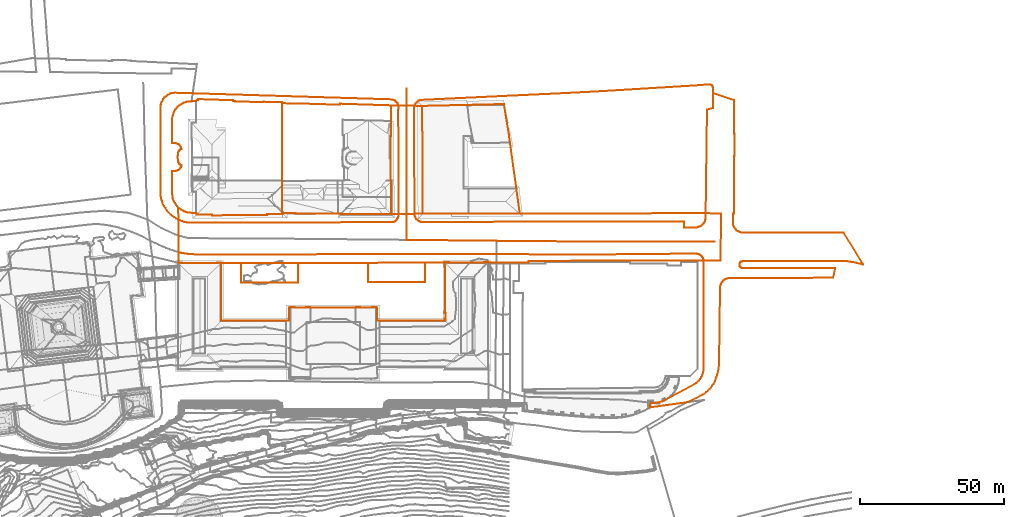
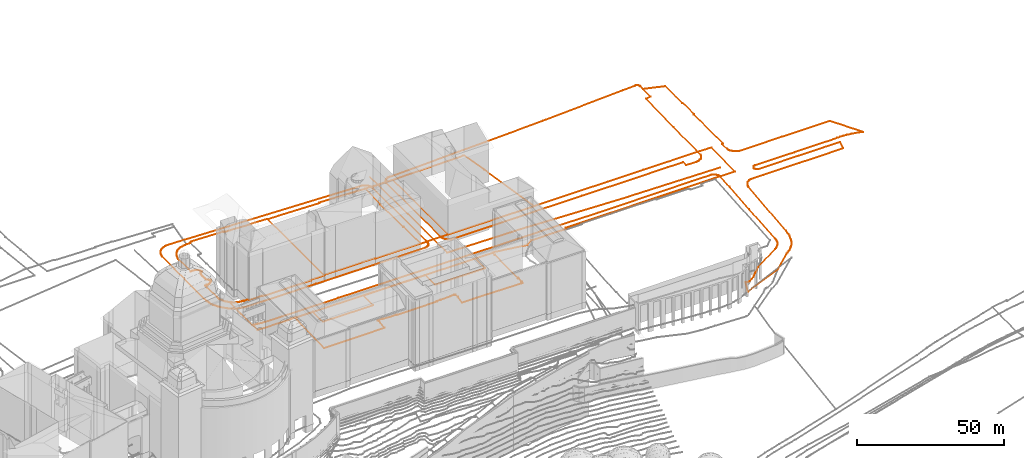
# Not in any storey, part 206 of 477: 7 civil elements, 5 geographic elements.
"""IFC4 model written with IfcOpenShell, lengths in metres."""

from ifc_helpers import new_model, entity, si_unit, frame, origin_with_axes, place, context, subcontext, project, spatial, element, save


model = new_model("IFC4")

# Units and contexts
model_context = context("Model", 3, precision=1e-05, world=origin_with_axes())
body_context = subcontext(model_context, "Body", "Model", "MODEL_VIEW")
ifc_project = project(units=[si_unit("AREAUNIT", "SQUARE_METRE"), si_unit("LENGTHUNIT", "METRE")], contexts=[model_context])

# Sites
site_1_placement = place(None, origin_with_axes())
site_1 = spatial("IfcSite", under=ifc_project, at=site_1_placement, Name="Topoexport Site")
site_2_placement = place(site_1_placement, origin_with_axes())
site_2 = spatial("IfcSite", under=site_1, at=site_2_placement, Name="TPX_ROADS")

# Civil elements
civil_element_1_placement = place(site_2_placement, frame((652.6867320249, 417.5187304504, 542.486), z_axis=(0.0, 0.0, 1.0), x_axis=(1.0, 0.0, 0.0)))
element("IfcCivilElement", 1, at=civil_element_1_placement, inside=site_2, Name="Road 3", ObjectType="ROAD", context=body_context, shape_type="GeometricCurveSet", body=[
    entity("IfcGeometricCurveSet", [entity("IfcIndexedPolyCurve", entity("IfcCartesianPointList3D", [[0.0370000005, 52.7809983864, -0.659], [0.0, 0.0, 0.0]]))]),
])
civil_element_2_placement = place(site_2_placement, frame((652.6867320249, 417.5187304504, 542.486), z_axis=(0.0, 0.0, 1.0), x_axis=(1.0, 0.0, 0.0)))
element("IfcCivilElement", 2, at=civil_element_2_placement, inside=site_2, Name="Road 36", ObjectType="ROAD", context=body_context, shape_type="GeometricCurveSet", body=[
    entity("IfcGeometricCurveSet", [entity("IfcIndexedPolyCurve", entity("IfcCartesianPointList3D", [[0.0, 0.0, 0.0], [28.1950000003, -0.2939999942, -0.083], [31.069000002, -0.3179999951, -0.138]]))]),
])
civil_element_3_placement = place(site_2_placement, frame((683.7557320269, 417.2007304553, 542.348), z_axis=(0.0, 0.0, 1.0), x_axis=(1.0, 0.0, 0.0)))
element("IfcCivilElement", 3, at=civil_element_3_placement, inside=site_2, Name="Road 37", ObjectType="ROAD", context=body_context, shape_type="GeometricCurveSet", body=[
    entity("IfcGeometricCurveSet", [entity("IfcIndexedPolyCurve", entity("IfcCartesianPointList3D", [[0.0, 0.0, 0.0], [39.1219999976, -0.328999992, -0.998], [75.5399999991, -0.2699999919, -1.55]]))]),
])

# Site
site_3_placement = place(site_1_placement, origin_with_axes())
site_3 = spatial("IfcSite", under=site_1, at=site_3_placement, Name="TPX_ROADS_OUTLINES")

# Civil elements
civil_element_4_placement = place(site_3_placement, frame((567.4697320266, 434.5867160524, 542.7544887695), z_axis=(0.0, 0.0, 1.0), x_axis=(1.0, 0.0, 0.0)))
element("IfcCivilElement", 4, at=civil_element_4_placement, inside=site_3, Name="Roads Outline 43", ObjectType="ROAD", context=body_context, shape_type="GeometricCurveSet", body=[
    entity("IfcGeometricCurveSet", [entity("IfcIndexedPolyCurve", entity("IfcCartesianPointList3D", [[0.0, 0.0, 0.0], [0.0620000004, 20.564, 0.0004995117], [0.0780000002, 29.0260000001, 0.000628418], [0.1400000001, 29.5870000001, 0.0011279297], [0.2630000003, 30.1370000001, 0.0021188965], [0.4470000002, 30.6710000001, 0.0036013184], [0.6880000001, 31.1810000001, 0.0055429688], [0.9840000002, 31.6610000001, -0.0008994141], [1.3310000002, 32.1060000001, -0.0092016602], [1.7590000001, 32.54, -0.0146170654], [2.2350000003, 32.9200000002, 0.019026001], [2.7540000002, 33.2410000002, 0.0548631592], [3.307, 33.497, 0.0837890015], [3.8870000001, 33.6850000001, 0.1035077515], [4.4850000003, 33.8030000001, 0.0993103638], [5.0930000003, 33.848, 0.0990375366], [11.1800000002, 33.662, 0.1599814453], [11.193, 33.662, 0.159239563], [13.054, 33.605, 0.130519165], [79.9580000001, 31.568, -0.1419857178], [80.3730000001, 31.4780000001, -0.1546251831], [80.77, 31.328, -0.1694902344], [81.1400000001, 31.121, -0.1973125], [81.4760000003, 30.861, -0.222578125], [81.7690000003, 30.5550000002, -0.2429386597], [82.014, 30.2080000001, -0.2546473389], [82.202, 29.835, -0.263631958], [82.3340000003, 29.439, -0.2699403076], [82.4130000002, 28.9669999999, -0.2737157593], [82.412, 28.4890000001, -0.2736679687], [82.3310000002, 28.017, -0.269796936], [82.4300000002, -8.0559999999, -0.2617280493], [82.4310000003, -8.4479999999, -0.2572122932], [82.4020000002, -8.838, -0.2531669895], [82.3120000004, -9.219, -0.2458946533], [82.1640000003, -9.581, -0.2374124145], [81.96, -9.915, -0.2282564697], [81.7069999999, -10.213, -0.2169340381], [81.4080000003, -10.469, -0.2091205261], [81.071, -10.6739999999, -0.2026078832], [80.7069999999, -10.8229999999, -0.1977775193], [80.324, -10.9139999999, -0.1894714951], [79.9310000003, -10.942, -0.1842285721], [37.3480000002, -11.047, -0.0719289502], [11.0460000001, -11.108, 0.0469855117], [10.159, -11.0899999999, 0.0246004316], [9.2760000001, -10.9989999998, 0.0096137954], [8.4029999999, -10.835, 0.0299447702], [7.548, -10.598, 0.0329820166], [6.7150000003, -10.291, 0.0102159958], [6.4640000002, -10.182, 0.010467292], [6.2150000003, -10.067, 0.0093346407], [6.1520000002, -10.037, 0.008769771], [6.0900000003, -10.0060000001, 0.0080815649], [5.4210000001, -9.6439999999, 0.0198054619], [4.7790000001, -9.2349999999, 0.0073437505], [4.1680000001, -8.781, 0.0195886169], [3.591, -8.2849999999, 0.0284144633], [2.9140000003, -7.6189999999, 0.0165648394], [2.2940000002, -6.898, 0.0231960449], [1.7370000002, -6.129, -0.0161719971], [1.2460000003, -5.3159999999, -0.0071679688], [0.8250000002, -4.4639999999, 0.0029047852], [0.5060000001, -3.6069999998, 0.0040766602], [0.2630000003, -2.7249999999, 0.0021188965], [0.0970000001, -1.825, 0.0007814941], [0.0090000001, -0.915, 7.25098e-05], [0.0, 0.0, 0.0]]))]),
])
civil_element_5_placement = place(site_3_placement, frame((588.3927320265, 389.6227160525, 542.3735518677), z_axis=(0.0, 0.0, 1.0), x_axis=(1.0, 0.0, 0.0)))
element("IfcCivilElement", 5, at=civil_element_5_placement, inside=site_3, Name="Roads Outline 48", ObjectType="ROAD", context=body_context, shape_type="GeometricCurveSet", body=[
    entity("IfcGeometricCurveSet", [entity("IfcIndexedPolyCurve", entity("IfcCartesianPointList3D", [[0.0, 0.0, 0.0], [0.0470000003, 18.6070000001, 0.4447444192], [0.1460000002, 18.605, 0.4409442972], [0.1460000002, 19.8740000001, 0.4538349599], [6.8940000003, 19.8840000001, 0.5417406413], [7.0130000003, 19.8840000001, 0.5450326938], [7.0360000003, 13.1429999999, 0.481623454], [26.7250000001, 13.156, 0.3870995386], [26.713, 19.9169999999, 0.2710653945], [50.969, 19.956, 0.2468383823], [50.969, 19.8999999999, 0.2442761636], [50.9720000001, 13.219, 0.3616328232], [70.6670000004, 13.2579999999, 0.2745794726], [70.6510000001, 19.9879999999, 0.2568159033], [77.5020000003, 19.9990000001, 0.1804133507], [77.5010000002, 18.6569999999, 0.189393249], [77.6500000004, 18.6569999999, 0.1903091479], [77.6670000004, 3.054, 0.0783720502], [77.4880000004, 3.054, 0.1048495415], [77.4920000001, 2.517, 0.0850132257], [77.8350000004, 2.5190000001, 0.0435398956], [77.8490000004, 0.7409999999, -0.1432831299], [77.4960000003, 0.7390000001, -0.1122651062], [77.4950000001, 0.2139999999, -0.1844251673], [77.7050000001, 0.2139999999, -0.2030466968], [77.7050000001, 0.004, -0.2319466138], [77.6380000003, 0.004, -0.2260049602], [58.642, 0.0419999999, -0.0577183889], [54.0320000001, 0.0109999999, -0.0286762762], [54.0310000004, 3.071, 0.4948335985], [54.1510000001, 3.071, 0.4900193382], [54.1490000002, 4.558, 0.5011787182], [53.6490000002, 4.5630000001, 0.5114040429], [53.6510000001, 4.6629999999, 0.5086091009], [52.145, 4.6599999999, 0.531783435], [52.1430000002, 4.4990000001, 0.5352608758], [48.2420000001, 4.487, 0.3741891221], [48.2390000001, 4.649, 0.3931432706], [46.73, 4.6410000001, 0.299680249], [46.7260000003, 4.4350000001, 0.2751059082], [30.9350000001, 4.4299999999, 0.1564332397], [30.932, 4.645, 0.1817151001], [29.4390000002, 4.6369999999, 0.2369729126], [29.4330000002, 4.477, 0.2184680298], [25.5380000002, 4.477, 0.4378212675], [25.5330000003, 4.6310000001, 0.4449681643], [24.0430000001, 4.6229999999, 0.4758845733], [24.0270000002, 4.5279999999, 0.475778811], [23.5360000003, 4.517, 0.4798681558], [23.5650000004, 3.058, 0.4714583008], [23.6860000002, 3.0549999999, 0.4696469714], [23.6900000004, -0.0150000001, 0.132790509], [0.0, 0.0, 0.0]]))]),
])
civil_element_6_placement = place(site_3_placement, frame((655.3217320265, 463.4627160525, 542.5333745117), z_axis=(0.0, 0.0, 1.0), x_axis=(1.0, 0.0, 0.0)))
element("IfcCivilElement", 6, at=civil_element_6_placement, inside=site_3, Name="Roads Outline 49", ObjectType="ROAD", context=body_context, shape_type="GeometricCurveSet", body=[
    entity("IfcGeometricCurveSet", [entity("IfcIndexedPolyCurve", entity("IfcCartesianPointList3D", [[0.0, 0.0, 0.0], [0.0380000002, 0.2349999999, 0.0022196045], [0.0960000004, 0.4649999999, 0.0056074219], [0.2630000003, 0.8999999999, 0.0153619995], [0.4980000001, 1.301, 0.029088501], [0.7950000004, 1.6599999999, 0.0464364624], [1.1460000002, 1.9659999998, 0.0592036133], [1.5430000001, 2.2109999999, 0.0718037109], [1.9750000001, 2.3879999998, 0.0804522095], [2.429, 2.4929999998, 0.0755475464], [2.895, 2.524, 0.070220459], [30.838, 3.8589999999, -0.0687895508], [51.037, 4.8029999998, -0.0975834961], [64.5640000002, 5.5059999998, -0.0975834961], [65.77, 5.5799999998, -0.0975834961], [97.1940000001, 7.5079999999, -0.0975834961], [101.7340000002, 7.8429999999, -0.0975834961], [102.0890000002, 7.8689999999, -0.0975834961], [102.3480000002, 7.8559999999, -0.0975834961], [102.5990000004, 7.7899999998, -0.0975834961], [102.8300000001, 7.6739999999, -0.0975834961], [103.0330000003, 7.5119999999, -0.0975834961], [103.2110000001, 7.2959999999, -0.0975834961], [103.3370000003, 7.0469999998, -0.0975834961], [103.4050000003, 6.7759999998, -0.0975834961], [103.4110000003, 6.4959999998, -0.0975834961], [103.395, 4.7869999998, -0.0975834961], [103.3470000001, -0.28, -0.0975834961], [101.3400000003, -0.7980000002, -0.0975834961], [101.0890000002, -19.8530000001, -0.0975834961], [100.8670000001, -36.7070000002, -0.0697157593], [100.8430000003, -38.5660000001, -0.1252501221], [100.747, -39.0340000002, -0.1258526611], [100.5900000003, -39.4840000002, -0.1055554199], [100.3740000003, -39.9100000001, -0.0872841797], [100.1030000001, -40.3030000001, -0.0727001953], [99.7820000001, -40.6560000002, -0.0596005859], [99.429, -40.9530000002, -0.0507507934], [99.0410000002, -41.2030000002, -0.0448456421], [98.6240000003, -41.4000000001, -0.0401923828], [98.1850000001, -41.5420000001, -0.0368382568], [97.7320000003, -41.625, -0.0348777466], [97.2710000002, -41.6500000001, -0.0342872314], [93.452, -41.6440000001, -0.0344289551], [93.4410000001, -39.554, -0.1023980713], [87.6530000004, -39.5680000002, -0.1017666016], [53.8470000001, -39.5960000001, -0.1005036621], [28.3020000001, -39.6850000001, -0.0732762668], [2.838, -39.7680000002, -0.0694016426], [2.426, -39.7150000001, -0.0871056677], [2.0260000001, -39.6060000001, -0.0983853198], [1.645, -39.442, -0.0781794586], [1.29, -39.226, -0.0438067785], [0.969, -38.9630000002, -0.0194923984], [0.6880000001, -38.6580000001, -0.0108138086], [0.4240000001, -38.2680000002, -0.0071667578], [0.2250000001, -37.841, -0.0051163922], [0.0960000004, -37.388, -0.0107059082], [0.0410000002, -36.9200000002, -0.0164809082], [0.04, -36.7410000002, -0.0163080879], [0.0490000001, -36.5620000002, -0.0121205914], [0.0, 0.0, 0.0]]))]),
])
civil_element_7_placement = place(site_3_placement, frame((573.6847320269, 424.5197160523, 542.7638234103), z_axis=(0.0, 0.0, 1.0), x_axis=(1.0, 0.0, 0.0)))
element("IfcCivilElement", 7, at=civil_element_7_placement, inside=site_3, Name="Roads Outline 96", ObjectType="ROAD", context=body_context, shape_type="GeometricCurveSet", body=[
    entity("IfcGeometricCurveSet", [entity("IfcIndexedPolyCurve", entity("IfcCartesianPointList3D", [[0.0, 0.0, 0.0], [0.2489999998, -0.115, 0.0011326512], [0.5, -0.2239999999, 0.000881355], [1.3329999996, -0.531, 0.0236473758], [2.1879999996, -0.7679999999, 0.0206101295], [3.0609999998, -0.9319999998, 0.0002791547], [3.9439999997, -1.0229999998, 0.0152657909], [4.8309999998, -1.041, 0.037650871], [31.1329999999, -0.98, -0.0812635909], [73.716, -0.875, -0.1935632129], [74.1089999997, -0.8469999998, -0.1988061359], [74.4919999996, -0.7559999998, -0.20711216], [74.8559999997, -0.6069999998, -0.2119425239], [75.193, -0.402, -0.2184551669], [75.4919999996, -0.1459999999, -0.2262686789], [75.7449999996, 0.152, -0.2375911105], [75.949, 0.486, -0.2467470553], [76.0970000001, 0.848, -0.2552292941], [76.1869999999, 1.2290000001, -0.2625016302], [76.216, 1.6190000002, -0.266546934], [76.2149999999, 2.0110000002, -0.2710626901], [76.1159999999, 38.084, -0.2791315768], [76.1969999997, 38.5560000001, -0.2830026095], [76.1979999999, 39.034, -0.2830504], [76.1189999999, 39.5060000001, -0.2792749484], [81.733, 39.4080000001, -0.2248414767], [81.6749999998, 39.1780000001, -0.2282292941], [81.6369999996, 38.9430000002, -0.2304488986], [81.6859999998, 2.3810000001, -0.24256949], [81.6769999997, 2.202, -0.2467569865], [81.6779999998, 2.023, -0.2469298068], [81.733, 1.5550000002, -0.2411548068], [81.8619999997, 1.1020000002, -0.2355652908], [82.0609999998, 0.675, -0.2376156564], [82.3249999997, 0.2850000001, -0.2412627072], [82.6059999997, -0.02, -0.2499412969], [82.9269999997, -0.2829999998, -0.2742556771], [83.2819999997, -0.4989999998, -0.3086283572], [83.6629999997, -0.6629999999, -0.3288342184], [84.0629999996, -0.7719999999, -0.3175545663], [84.4749999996, -0.825, -0.2998505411], [109.9389999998, -0.7419999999, -0.3037251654], [135.4839999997, -0.6529999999, -0.3309525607], [169.29, -0.625, -0.3322155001], [175.0779999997, -0.6109999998, -0.3328469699], [175.0889999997, -2.7009999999, -0.2648778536], [178.9079999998, -2.7069999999, -0.26473613], [179.3689999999, -2.6819999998, -0.2653266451], [179.8219999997, -2.5989999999, -0.2672871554], [180.2609999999, -2.4569999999, -0.2706412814], [180.6779999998, -2.26, -0.2752945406], [181.0659999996, -2.01, -0.281199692], [181.4189999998, -1.713, -0.2900494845], [181.7399999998, -1.3599999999, -0.3031490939], [182.0109999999, -0.9669999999, -0.3177330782], [182.227, -0.541, -0.3360043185], [182.3839999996, -0.091, -0.3563015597], [182.48, 0.3770000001, -0.3556990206], [182.5039999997, 2.236, -0.3001646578], [182.7259999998, 19.0900000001, -0.3280323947], [182.977, 38.145, -0.3280323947], [184.9839999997, 38.6630000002, -0.3280323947], [185.0319999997, 43.73, -0.3280323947], [192.2709999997, 41.3700000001, -0.3280323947], [192.3169999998, 29.8350000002, -0.3280323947], [192.5009999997, 29.8470000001, -0.3280323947], [192.5419999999, 22.0550000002, -0.3280323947], [192.2609999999, 22.0550000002, -0.3280323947], [192.3169999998, 2.0860000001, -0.2987898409], [192.0109999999, 2.0870000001, -0.2987711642], [192.0049999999, -1.2389999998, -0.3076393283], [192.0689999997, -1.716, -0.2899381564], [192.1979999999, -2.179, -0.2772078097], [192.389, -2.6199999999, -0.2667911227], [192.6399999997, -3.0299999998, -0.2542454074], [192.9449999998, -3.402, -0.2395779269], [193.2739999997, -3.7089999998, -0.2274733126], [193.6399999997, -3.97, -0.2252618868], [194.037, -4.183, -0.2310861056], [194.4569999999, -4.3429999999, -0.2354611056], [194.895, -4.4469999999, -0.2383048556], [195.3419999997, -4.4939999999, -0.2395900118], [211.733, -4.46, -0.2386603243], [230.2449999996, -4.3909999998, -0.2367736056], [237.0430000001, -15.5989999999, -0.3627613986], [236.5099999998, -15.4349999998, -0.3531520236], [235.9739999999, -15.2799999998, -0.3440699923], [234.4609999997, -14.919, -0.3229176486], [232.9339999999, -14.6239999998, -0.3140095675], [231.395, -14.3959999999, -0.309138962], [230.1059999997, -14.2899999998, -0.3068745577], [228.8139999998, -14.2449999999, -0.305913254], [227.5219999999, -14.2609999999, -0.3062550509], [226.2309999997, -14.338, -0.3078999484], [210.551, -14.3689999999, -0.3085621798], [195.318, -14.4029999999, -0.3092884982], [195.037, -14.443, -0.3101429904], [194.773, -14.548, -0.3123860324], [194.5419999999, -14.7139999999, -0.3159321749], [194.358, -14.9299999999, -0.3235621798], [194.23, -15.1839999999, -0.3384449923], [194.1669999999, -15.4609999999, -0.3546754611], [194.173, -15.747, -0.3714332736], [194.2479999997, -16.024, -0.3924382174], [194.3869999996, -16.274, -0.4139073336], [194.5829999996, -16.4839999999, -0.4319413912], [194.824, -16.6399999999, -0.4453381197], [195.0949999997, -16.733, -0.453324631], [195.3799999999, -16.7579999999, -0.4554715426], [210.6709999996, -16.6979999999, -0.4503189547], [227.3529999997, -16.7169999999, -0.4519506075], [226.5970000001, -20.1129999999, -0.7545797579], [209.2419999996, -20.1479999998, -0.7558465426], [190.98, -20.169, -0.7566066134], [190.4579999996, -20.216, -0.7583077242], [189.949, -20.3399999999, -0.7627957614], [189.463, -20.537, -0.7699259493], [189.0119999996, -20.804, -0.7795897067], [188.605, -21.1339999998, -0.7939341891], [188.2889999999, -21.4719999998, -0.8090146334], [188.02, -21.8489999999, -0.825835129], [187.801, -22.257, -0.867197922], [187.6379999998, -22.6899999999, -0.9110951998], [187.5329999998, -23.1409999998, -0.948779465], [187.4979999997, -23.4129999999, -0.9688673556], [187.4839999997, -23.6869999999, -0.9891029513], [187.1510000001, -49.4949999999, -3.2466152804], [187.0799999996, -50.5159999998, -3.3374651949], [186.949, -51.531, -3.3479957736], [186.7569999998, -52.5359999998, -3.3187373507], [186.469, -53.645, -3.328140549], [186.108, -54.733, -3.3339386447], [185.6749999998, -55.794, -3.3742698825], [185.1709999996, -56.8229999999, -3.3740601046], [184.7549999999, -57.453, -3.3747660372], [184.2989999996, -58.0549999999, -3.3930270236], [183.8049999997, -58.6259999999, -3.4422367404], [183.2739999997, -59.1629999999, -3.4822684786], [182.7059999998, -59.6679999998, -3.5157419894], [182.1059999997, -60.1339999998, -3.5446647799], [181.477, -60.5599999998, -3.5699637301], [180.821, -60.943, -3.5857439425], [176.003, -63.2049999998, -7.1242233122], [163.3289999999, -64.9609999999, -10.7134957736], [163.352, -63.362, -7.8135131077], [164.165, -63.4129999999, -8.0374225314], [164.9789999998, -63.3899999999, -7.9364437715], [165.7879999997, -63.294, -7.5149672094], [166.585, -63.1239999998, -6.7686024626], [167.3629999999, -62.8839999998, -5.7149110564], [168.1159999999, -62.5739999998, -5.0143193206], [168.838, -62.1969999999, -4.2645301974], [178.622, -56.889, -3.3740431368], [179.1919999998, -56.527, -3.3748369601], [179.7179999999, -56.105, -3.375944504], [180.1939999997, -55.6269999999, -3.3671450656], [180.6140000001, -55.0989999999, -3.3446186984], [180.9729999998, -54.5279999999, -3.3339136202], [181.2379999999, -53.9879999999, -3.3338477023], [181.4479999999, -53.4249999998, -3.3220040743], [181.602, -52.8439999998, -3.3061421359], [181.6979999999, -52.25, -3.3304329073], [181.736, -51.6499999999, -3.3475599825], [181.7519999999, -33.7619999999, -1.8984335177], [181.7779999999, -20.5219999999, -0.7693830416], [181.7760000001, -14.3659999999, -0.3084980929], [181.773, -14.264, -0.3063191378], [181.767, -14.1629999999, -0.304161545], [181.6919999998, -13.7279999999, -0.2973134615], [181.5439999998, -13.3119999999, -0.2968310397], [181.327, -12.9269999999, -0.2963845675], [181.048, -12.585, -0.3055592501], [180.7609999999, -12.331, -0.3144734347], [180.4399999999, -12.122, -0.3218083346], [180.091, -11.963, -0.3273884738], [179.7229999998, -11.8569999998, -0.3311085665], [179.3429999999, -11.8069999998, -0.3347346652], [172.1529999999, -11.8019999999, -0.3351329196], [135.3629999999, -12.1399999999, -0.3211766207], [110.1229999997, -11.875, -0.2874152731], [85.7429999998, -11.9109999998, -0.2580695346], [33.6229999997, -12.024, -0.0378189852], [7.1029999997, -12.048, 0.031563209], [5.8599999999, -12.0249999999, 0.0514780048], [4.6189999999, -11.953, 0.0546086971], [3.3819999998, -11.8329999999, 0.0453476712], [2.1499999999, -11.666, 0.0176432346], [1.0970000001, -11.4839999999, 0.0153037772], [0.0499999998, -11.2679999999, -0.0027263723], [0.0, 0.0, 0.0]]))]),
])

# Site
site_4_placement = place(site_1_placement, origin_with_axes())
site_4 = spatial("IfcSite", under=site_1, at=site_4_placement, Name="TPX_CADASTRES")

# Geographic elements
geographic_element_1_placement = place(site_4_placement, frame((571.4827320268, 450.9747160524, 542.8571121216), z_axis=(0.0, 0.0, 1.0), x_axis=(1.0, 0.0, 0.0)))
element("IfcGeographicElement", 8, at=geographic_element_1_placement, inside=site_4, Name="Cadastre 14", PredefinedType="NOTDEFINED", context=body_context, shape_type="GeometricCurveSet", body=[
    entity("IfcGeometricCurveSet", [entity("IfcIndexedPolyCurve", entity("IfcCartesianPointList3D", [[0.0, 0.0, 0.0], [0.0019999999, 1.5090000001, -1.40381e-05], [0.0630000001, 1.517, -0.0004421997], [0.0290000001, 7.8489999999, -0.0002035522], [0.0519999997, 8.5090000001, -0.0003649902], [0.142, 9.1629999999, -0.0009967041], [0.298, 9.8049999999, -0.0020916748], [0.517, 10.4280000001, -0.0036288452], [0.798, 11.0249999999, -0.0045324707], [1.1379999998, 11.591, -0.0033911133], [1.5329999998, 12.1200000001, -0.0020651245], [1.9789999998, 12.6070000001, 0.0097111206], [2.4720000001, 13.0460000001, 0.0292096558], [3.0060000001, 13.433, 0.037744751], [3.577, 13.7650000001, 0.0372219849], [4.179, 14.037, 0.0449423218], [4.804, 14.247, 0.0559094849], [5.4479999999, 14.3929999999, 0.0713963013], [6.1030000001, 14.4739999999, 0.0801749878], [6.7629999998, 14.4880000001, 0.0804135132], [6.7709999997, 14.55, 0.0799569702], [8.2719999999, 14.5490000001, 0.0282827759], [8.2779999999, 14.6699999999, 0.0282937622], [8.6489999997, 15.0060000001, 0.0289730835], [8.9789999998, 15.0050000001, 0.0281039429], [8.997, 15.253, 0.0280435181], [21.0759999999, 14.8700000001, 0.0100957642], [21.0639999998, 14.625, 0.0100855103], [21.3870000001, 14.615, 0.0103615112], [21.3939999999, 14.5660000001, 0.0103674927], [21.7579999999, 14.548, 0.0103555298], [21.7719999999, 14.4790000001, 0.0102957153], [31.4210000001, 14.186, -0.1225966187], [31.4249999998, 14.2820000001, -0.1227243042], [31.7679999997, 14.277, -0.1336688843], [31.7709999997, 14.344, -0.1337644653], [38.0589999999, 14.1629999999, -0.1517463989], [38.0589999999, 14.0900000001, -0.1517463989], [38.1710000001, -24.4750000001, -0.1483571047], [38.1710000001, -24.544, -0.1503563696], [32.8479999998, -24.547, -0.1371345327], [32.8419999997, -24.9039999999, -0.1416531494], [13.9029999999, -24.9609999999, 0.0271454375], [13.8679999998, -24.615, 0.0445227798], [8.7509999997, -24.6259999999, 0.0477380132], [8.3929999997, -24.277, 0.0582267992], [8.3899999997, -24.1569999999, 0.054523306], [6.8769999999, -24.169, 0.0649339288], [6.8759999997, -24.095, 0.0657276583], [6.23, -24.068, 0.0655939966], [5.5889999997, -23.98, 0.0566184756], [4.96, -23.8300000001, 0.0345990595], [4.3479999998, -23.621, 0.029925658], [3.7590000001, -23.3540000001, 0.0353835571], [3.199, -23.031, 0.0375680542], [2.6719999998, -22.6569999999, 0.037119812], [2.1829999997, -22.233, 0.01777948], [1.736, -21.763, 0.0001002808], [1.3359999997, -21.2520000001, -0.0027264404], [0.9879999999, -20.7050000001, -0.0038946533], [0.693, -20.1270000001, -0.0048641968], [0.4559999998, -19.524, -0.0032006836], [0.2779999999, -18.8999999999, -0.0019512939], [0.1599999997, -18.2619999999, -0.0011230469], [0.105, -17.6159999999, -0.0007369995], [0.0949999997, -11.1089999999, -0.0006668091], [0.0209999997, -11.1000000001, -0.0001473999], [0.02, -9.5900000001, -0.0001403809], [0.7739999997, -9.588, -0.0046130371], [0.7779999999, -9.6189999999, -0.0045996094], [1.213, -9.598, -0.0031393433], [1.6379999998, -9.504, -0.0017126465], [2.0409999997, -9.341, 0.012163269], [2.412, -9.1129999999, 0.0268366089], [2.7399999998, -8.825, 0.0379882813], [3.0149999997, -8.486, 0.0377365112], [3.2289999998, -8.1059999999, 0.0375405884], [3.3769999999, -7.6950000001, 0.0374050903], [3.088, -7.6040000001, 0.0376696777], [2.8219999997, -7.4579999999, 0.037913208], [2.5899999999, -7.2619999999, 0.033876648], [2.4019999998, -7.024, 0.0264411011], [2.264, -6.754, 0.0209830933], [2.1829999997, -6.4620000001, 0.01777948], [2.074, -5.817, 0.0134684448], [2.0159999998, -5.165, 0.0111744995], [2.0109999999, -4.5109999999, 0.0109767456], [2.057, -3.858, 0.0127960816], [2.1540000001, -3.2109999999, 0.0166325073], [2.2390000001, -2.916, 0.0199943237], [2.378, -2.642, 0.0254918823], [2.5669999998, -2.3999999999, 0.03296698], [2.7990000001, -2.1980000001, 0.0379342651], [3.0639999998, -2.0430000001, 0.0376916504], [3.3539999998, -1.942, 0.0374261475], [3.2059999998, -1.5289999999, 0.0375616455], [2.9929999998, -1.1459999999, 0.0377566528], [2.7199999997, -0.8030000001, 0.0380065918], [2.3939999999, -0.51, 0.0261246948], [2.0249999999, -0.274, 0.0115304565], [1.622, -0.102, -0.0017663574], [1.1969999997, 0.0020000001, -0.0031930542], [0.7599999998, 0.0349999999, -0.0046600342], [0.7560000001, -0.004, -0.0046734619], [0.0, 0.0, 0.0]]))]),
])
geographic_element_2_placement = place(site_4_placement, frame((609.5417320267, 465.0647160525, 542.7053657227), z_axis=(0.0, 0.0, 1.0), x_axis=(1.0, 0.0, 0.0)))
element("IfcGeographicElement", 9, at=geographic_element_2_placement, inside=site_4, Name="Cadastre 18", PredefinedType="NOTDEFINED", context=body_context, shape_type="GeometricCurveSet", body=[
    entity("IfcGeometricCurveSet", [entity("IfcIndexedPolyCurve", entity("IfcCartesianPointList3D", [[0.0, 0.0, 0.0], [0.1809999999, -0.003, 0.0050596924], [0.1690000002, -0.2439999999, 0.0047242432], [4.5499999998, -0.382, 0.0129088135], [4.5529999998, -0.301, 0.0129573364], [20.111, -0.773, 0.0272835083], [20.1140000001, -0.433, 0.0272452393], [37.764, -0.9950000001, -0.0891469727], [37.798, -11.6880000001, -0.0901824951], [37.588, -11.682, -0.0833823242], [37.6290000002, -27.017, -0.0849763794], [37.818, -27.0020000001, -0.090791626], [37.8450000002, -38.5390000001, -0.1008476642], [20.2110000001, -38.5720000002, -0.0028393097], [20.2280000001, -38.3689999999, 0.0042158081], [4.6690000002, -38.3910000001, 0.0470196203], [4.6690000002, -38.311, 0.0444764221], [0.281, -38.338, 0.0063204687], [0.2880000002, -38.5590000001, 0.0018945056], [0.1120000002, -38.5650000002, 0.0033892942], [0.0, 0.0, 0.0]]))]),
])
geographic_element_3_placement = place(site_4_placement, frame((658.1087320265, 463.8807160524, 542.6050545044), z_axis=(0.0, 0.0, 1.0), x_axis=(1.0, 0.0, 0.0)))
element("IfcGeographicElement", 10, at=geographic_element_3_placement, inside=site_4, Name="Cadastre 19", PredefinedType="NOTDEFINED", context=body_context, shape_type="GeometricCurveSet", body=[
    entity("IfcGeometricCurveSet", [entity("IfcIndexedPolyCurve", entity("IfcCartesianPointList3D", [[0.0, 0.0, 0.0], [28.0160000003, 0.6370000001, -0.1387178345], [28.2660000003, 0.6410000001, -0.1468653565], [29.98, -9.9039999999, -0.1692634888], [33.7630000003, -37.2609999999, -0.1397594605], [0.0600000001, -37.3319999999, 0.0107756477], [0.0, 0.0, 0.0]]))]),
])
geographic_element_4_placement = place(site_4_placement, frame((573.6657320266, 428.7417160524, 542.8748916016), z_axis=(0.0, 0.0, 1.0), x_axis=(1.0, 0.0, 0.0)))
element("IfcGeographicElement", 11, at=geographic_element_4_placement, inside=site_4, Name="Cadastre 140", PredefinedType="NOTDEFINED", context=body_context, shape_type="GeometricCurveSet", body=[
    entity("IfcGeometricCurveSet", [entity("IfcIndexedPolyCurve", entity("IfcCartesianPointList3D", [[0.0, 0.0, 0.0], [0.4890000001, -0.4239999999, 0.019340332], [1.0160000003, -0.798, 0.0197885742], [1.5760000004, -1.121, 0.0176040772], [2.165, -1.388, 0.012146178], [2.7770000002, -1.5970000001, 0.0168195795], [3.406, -1.747, 0.0388389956], [4.0470000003, -1.835, 0.0478145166], [4.693, -1.862, 0.0479481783], [4.6940000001, -1.936, 0.0471544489], [6.2069999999, -1.9239999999, 0.036743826], [6.21, -2.044, 0.0404473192], [6.568, -2.3929999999, 0.0299585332], [11.6850000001, -2.382, 0.0267432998], [11.7200000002, -2.7279999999, 0.0093659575], [30.659, -2.6709999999, -0.1594326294], [30.665, -2.314, -0.1549140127], [35.9880000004, -2.311, -0.1681358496], [35.9880000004, -2.2420000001, -0.1661365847], [36.1640000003, -2.236, -0.1676313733], [36.1570000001, -2.0149999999, -0.1632054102], [40.5450000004, -1.9879999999, -0.1250494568], [40.5450000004, -2.068, -0.1225062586], [56.1040000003, -2.0459999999, -0.1653100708], [56.0870000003, -2.2490000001, -0.1723651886], [73.7210000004, -2.216, -0.2703735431], [84.503, -2.193, -0.2590614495], [118.2060000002, -2.122, -0.4095965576], [147.3840000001, -2.058, -0.409039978], [161.2439999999, -2.0319999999, -0.4098318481], [182.2750000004, -1.9790000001, -0.4114460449], [187.8830000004, -2.1359999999, -0.4098580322], [187.6670000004, -18.378, -0.4150802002], [179.6690000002, -18.388, -0.4152938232], [121.1460000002, -18.4909999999, -0.4174941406], [121.1470000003, -19.111, -0.4322280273], [114.8170000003, -19.121, -0.4328139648], [107.3990000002, -19.138, -0.5585008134], [107.3990000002, -18.953, -0.5097417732], [105.8960000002, -18.9509999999, -1.7530609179], [105.889, -19.095, -1.8225005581], [93.7260000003, -19.1189999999, -0.3179616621], [93.716, -18.966, -0.3199922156], [92.2290000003, -18.97, -0.32101801], [92.2290000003, -19.1199999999, -0.3209263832], [14.8740000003, -19.2449999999, -0.0475833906], [14.872, -19.095, -0.0465944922], [13.3770000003, -19.0989999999, -0.0198334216], [13.375, -19.2439999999, -0.02541167], [1.2250000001, -19.247, 0.0410190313], [1.2220000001, -19.1059999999, 0.040450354], [0.1130000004, -19.1129999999, 0.0427025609], [0.0690000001, -15.49, -0.1137945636], [0.0, 0.0, 0.0]]))]),
])
geographic_element_5_placement = place(site_4_placement, frame((647.1297320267, 453.3827160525, 542.6219833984), z_axis=(0.0, 0.0, 1.0), x_axis=(1.0, 0.0, 0.0)))
element("IfcGeographicElement", 12, at=geographic_element_5_placement, inside=site_4, Name="Cadastre 142", PredefinedType="NOTDEFINED", context=body_context, shape_type="GeometricCurveSet", body=[
    entity("IfcGeometricCurveSet", [entity("IfcIndexedPolyCurve", entity("IfcCartesianPointList3D", [[0.0, 0.0, 0.0], [0.21, -0.0060000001, -0.0068001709], [0.176, 10.6869999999, -0.0057646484], [10.9789999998, 10.4979999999, -0.016928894], [11.0389999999, -26.834, -0.0061532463], [0.2570000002, -26.8570000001, -0.01746534], [0.23, -15.3200000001, -0.0074093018], [0.0410000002, -15.335, -0.0015940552], [0.0, 0.0, 0.0]]))]),
])

save(model, "model.ifc")
